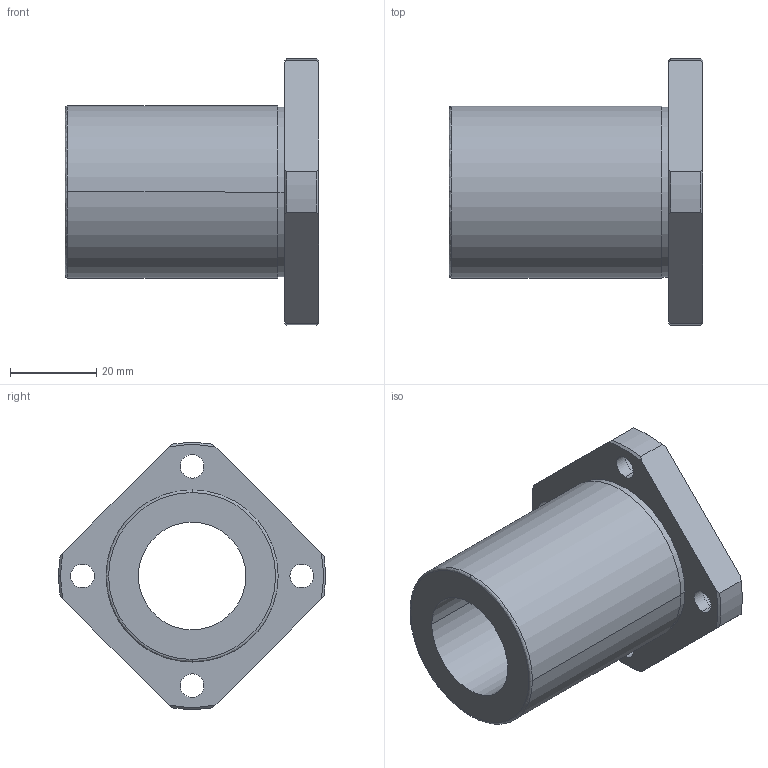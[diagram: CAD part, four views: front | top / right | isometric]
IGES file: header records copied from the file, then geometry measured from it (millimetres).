
Start section: 3D InterOp IGES (Version 21 0 1), Spatial Corp. Copyright (c) 1999-2007.
Global section: file name: NF-25TVUU.igs; native system: Spatial Corp.; preprocessor: 3D InterOp GENERIC/IGES 3.0; author: Noname; organization: Noname; date: 20220308.154121; units: millimetre
Bounding box: 59 x 61.96 x 61.92 mm (x, y, z)
Surface area: 16967.3 mm2 (no closed solid volume)
Topology: 0 solids, 0 shells, 51 faces, 256 edges, 256 vertices
Faces by surface type: revolution 39, extrusion 12
